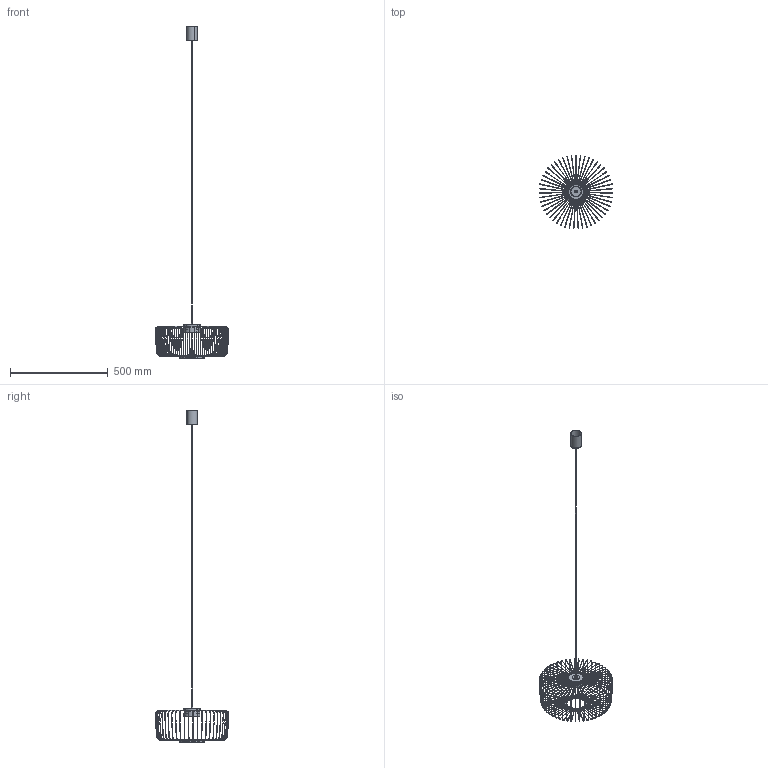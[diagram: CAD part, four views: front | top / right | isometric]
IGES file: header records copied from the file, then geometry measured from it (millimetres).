
Start section: SolidWorks IGES file using analytic representation for surfaces
Global section: file name: C:\Users\anna.bielnik\Desktop\KENAI C\NL2500012474.IGS; native system: SolidWorks 2024; preprocessor: SolidWorks 2024; author: anna.bielnik; date: 260112.085723; units: millimetre
Bounding box: 378.68 x 378.5 x 1700 mm (x, y, z)
Surface area: 271444 mm2 (no closed solid volume)
Topology: 0 solids, 0 shells, 1369 faces, 13156 edges, 13156 vertices
Faces by surface type: revolution 818, bspline 551
